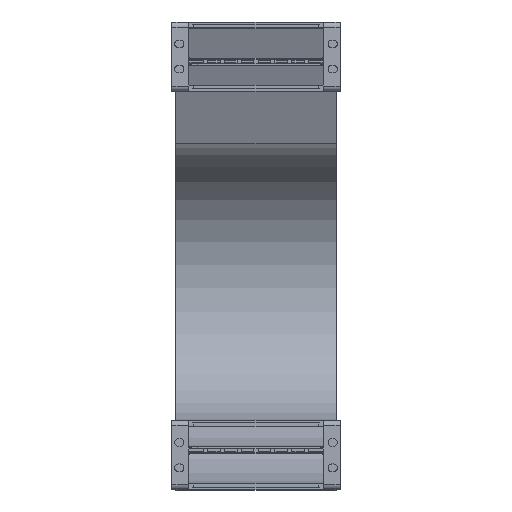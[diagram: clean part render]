
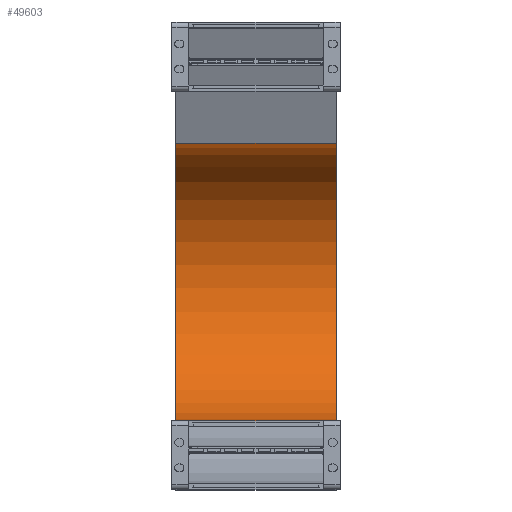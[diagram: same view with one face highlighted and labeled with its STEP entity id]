
A CAD part, top view. The second image highlights one B-rep face of the part: STEP entity #49603.
In plain terms, the highlighted cylindrical face has radius 82.5 mm (diameter 165 mm), a partial arc.
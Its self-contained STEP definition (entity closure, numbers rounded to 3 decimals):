
#48755=DIRECTION('',(-1.,0.,0.));
#48756=VECTOR('',#48755,95.);
#48757=CARTESIAN_POINT('',(47.5,41.,-400.));
#48758=LINE('',#48757,#48756);
#48769=DIRECTION('',(-1.,0.,0.));
#48770=VECTOR('',#48769,95.);
#48771=CARTESIAN_POINT('',(47.5,205.689,-407.16));
#48772=LINE('',#48771,#48770);
#48776=CARTESIAN_POINT('',(47.5,123.5,-400.));
#48777=DIRECTION('',(-1.,0.,0.));
#48778=DIRECTION('',(0.,0.996,-0.087));
#48779=AXIS2_PLACEMENT_3D('',#48776,#48777,#48778);
#48855=CARTESIAN_POINT('',(-47.5,123.5,-400.));
#48856=DIRECTION('',(-1.,0.,0.));
#48857=DIRECTION('',(0.,0.996,-0.087));
#48858=AXIS2_PLACEMENT_3D('',#48855,#48856,#48857);
#48977=CARTESIAN_POINT('',(47.5,205.689,-407.16));
#48978=CARTESIAN_POINT('',(-47.5,205.689,-407.16));
#48979=VERTEX_POINT('',#48977);
#48980=VERTEX_POINT('',#48978);
#49001=CARTESIAN_POINT('',(47.5,41.,-400.));
#49002=CARTESIAN_POINT('',(-47.5,41.,-400.));
#49003=VERTEX_POINT('',#49001);
#49004=VERTEX_POINT('',#49002);
#49589=CARTESIAN_POINT('',(1.,123.5,-400.));
#49590=DIRECTION('',(-1.,0.,0.));
#49591=DIRECTION('',(0.,-0.996,0.087));
#49592=AXIS2_PLACEMENT_3D('',#49589,#49590,#49591);
#49593=CYLINDRICAL_SURFACE('',#49592,82.5);
#49595=ORIENTED_EDGE('',*,*,#49594,.F.);
#49597=ORIENTED_EDGE('',*,*,#49596,.T.);
#49598=ORIENTED_EDGE('',*,*,#49572,.T.);
#49600=ORIENTED_EDGE('',*,*,#49599,.F.);
#49601=EDGE_LOOP('',(#49595,#49597,#49598,#49600));
#49602=FACE_OUTER_BOUND('',#49601,.F.);
#48780=CIRCLE('',#48779,82.5);
#48859=CIRCLE('',#48858,82.5);
#49572=EDGE_CURVE('',#49003,#49004,#48758,.T.);
#49594=EDGE_CURVE('',#48979,#48980,#48772,.T.);
#49596=EDGE_CURVE('',#48979,#49003,#48780,.T.);
#49599=EDGE_CURVE('',#48980,#49004,#48859,.T.);
#49603=ADVANCED_FACE('',(#49602),#49593,.F.);
